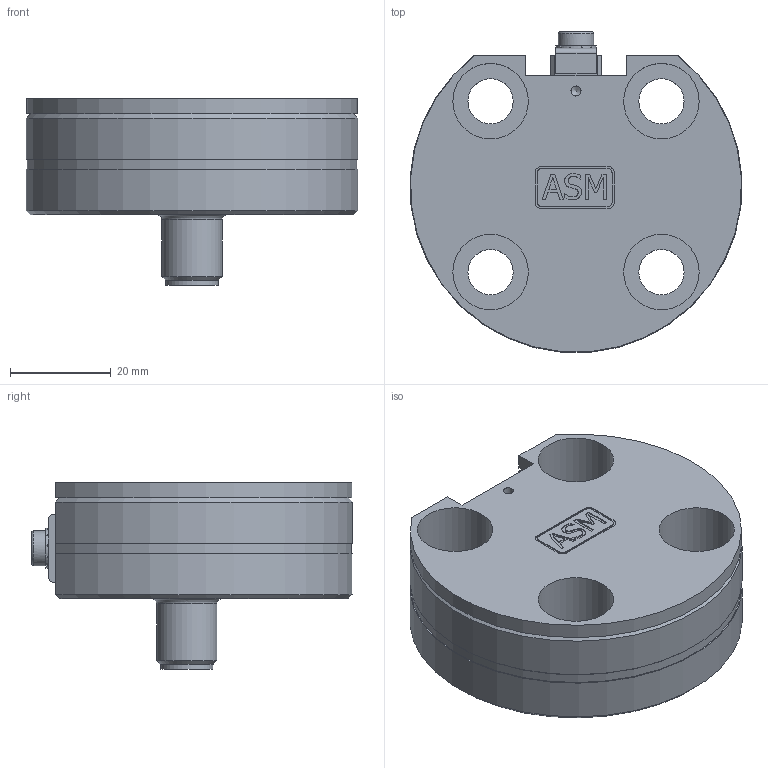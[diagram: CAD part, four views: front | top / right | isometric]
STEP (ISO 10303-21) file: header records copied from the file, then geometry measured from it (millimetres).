
FILE_DESCRIPTION((''),'2;1');
FILE_NAME('K:\Daten\pras5exax.stp','2014-01-23T11:57:27',('kamp'),(''),'Autodesk Inventor 2008','Autodesk Inventor 2008','');
FILE_SCHEMA(('AUTOMOTIVE_DESIGN { 1 0 10303 214 1 1 1 1 }'));
Length unit declared in the file: millimetre
Products named in the file (1): Bauteil24
Bounding box: 65.91 x 63.68 x 37 mm (x, y, z)
Volume: 62296.5 mm3; surface area: 15811.2 mm2
Topology: 1 solids, 1 shells, 271 faces, 728 edges, 472 vertices
Faces by surface type: plane 170, cylinder 52, bspline 40, sphere 5, cone 4
Full cylindrical faces by diameter (mm): 1 x5, 7 x1, 8.3 x1, 10.4 x1, 12 x1
Entity records: 8732 total; most frequent: CARTESIAN_POINT 2023, ORIENTED_EDGE 1372, DIRECTION 1259, EDGE_CURVE 686, VERTEX_POINT 463, VECTOR 461, LINE 461, AXIS2_PLACEMENT_3D 399
